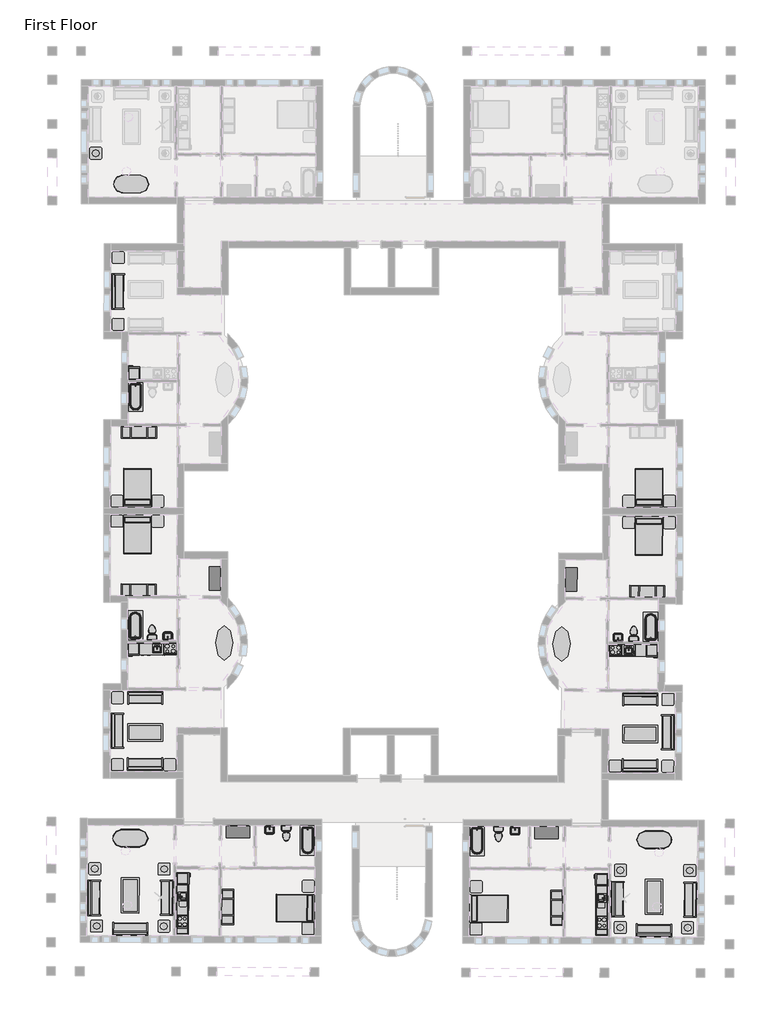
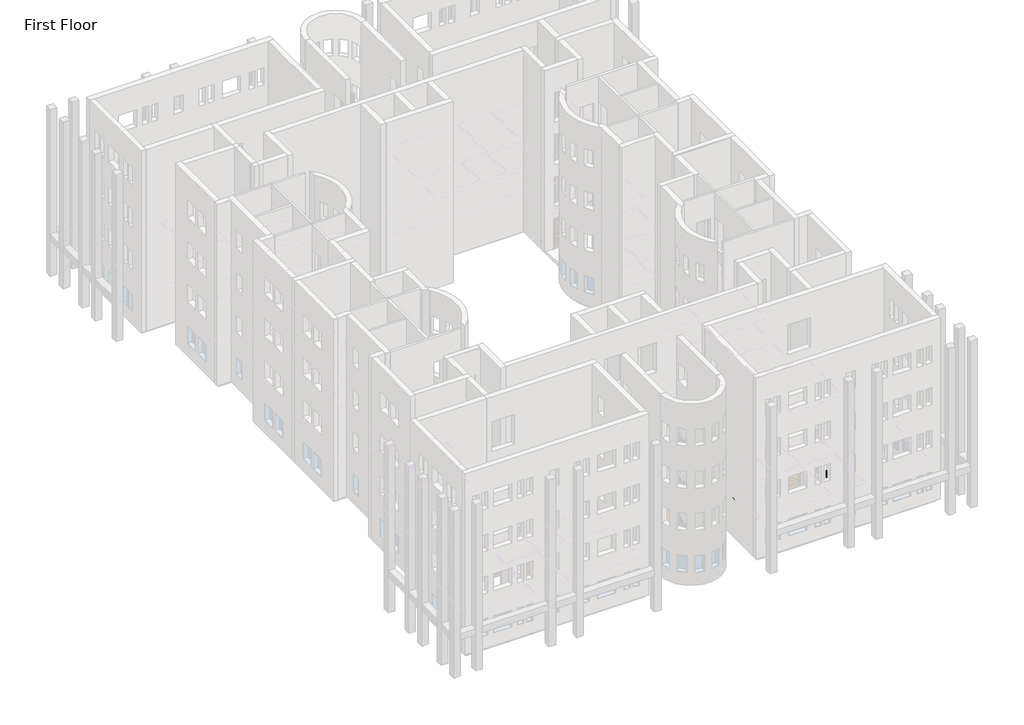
# One storey, part 21 of 23: 70 furniture elements, 17 flow terminals, 17 proxies.
"""IFC4 building model written with IfcOpenShell, lengths in millimetres."""

from ifc_helpers import new_model, si_unit, origin, place, context, project, spatial, transform, mapped, element, save
from components import m_cook_top_4_unit2_0615_x_500mm_249f3515, m_cook_top_4_unit2_0615_x_500mm_c91639ce, m_dishwasher_610_x_610_x_875mm_54ecfc4c, m_dishwasher_610_x_610_x_875mm_75336c20, m_kitchenette_medium_2591_ce898a11, m_kitchenette_medium_2591_5feaf90f, m_kitchenette_medium_1372mm_e05c6bec, m_kitchenette_medium_1372mm_39f1532f, m_refrigerator_600_x_660mm_a466bf94, m_refrigerator_600_x_660mm_0a899b9c, m_sink_kitchen_island_450_x_450mm_f969cf2d, m_sink_kitchen_island_450_x_450mm_f6c2c534, m_sink_vanity_square_500_x_440mm_1e229b74, m_sink_vanity_square_500_x_440mm_f3cfe680, m_toilet_domestic_3d_m_toilet_domestic_3d_5cb52bd4, m_toilet_domestic_3d_m_toilet_domestic_3d_183bbd19, m_toilet_domestic_3d_m_toilet_domestic_3d_43425dfb, m_toilet_domestic_3d_m_toilet_domestic_3d_5530cc89, m_tub_rectangular_3d_m_tub_rectangular_3d_3a981ad5, m_tub_rectangular_3d_m_tub_rectangular_3d_c2020133, m_bed_shaker_1422_x_1981mm_double_096e7f55, m_bed_shaker_1422_x_1981mm_double_097b173b, m_counter_top_w_sink_hole_600mm_depth_5db41418, m_counter_top_w_sink_hole_600mm_depth_08c4f679, m_counter_top_w_sink_hole_600mm_depth_60928b92, m_counter_top_w_sink_hole_600mm_depth_42226178, m_dresser_1220_x_1525_x_0610mm_18e1f140, m_dresser_1220_x_1525_x_0610mm_4e5de046, m_entertainment_center_1830_x_1830_x_0610mm_f77a9b93, m_entertainment_center_1830_x_1830_x_0610mm_4f6058a0, m_sofa_1830mm_58d08fc1, m_sofa_1830mm_3da2e71b, m_sofa1_1830mm_f9e8a66b, m_sofa1_1830mm_493d6964, m_table_coffee_0915_x_1830_x_0457mm_134cd960, m_table_coffee_0915_x_1830_x_0457mm_595c1ebd, m_table_dining_oval_0915_x_1830mm_a7cfbe21, m_table_dining_oval_0915_x_1830mm_ad8305c5, m_table_ellipse_1800_x_900mm_fd46d5a5, m_table_ellipse_1800_x_900mm_f7269293, m_table_end_cb6ea12e, m_table_end_aa2764bc, m_table_end_0610_x_0160mm_e0e5b28f, m_table_end_0610_x_0160mm_ccef8dc9

model = new_model("IFC4")

# Units and contexts
model_context = context("Model", 3, world=origin())
ifc_project = project(units=[si_unit("LENGTHUNIT", "METRE", prefix="MILLI")], contexts=[model_context])

# Site, building, storey
site = spatial("IfcSite", under=ifc_project)
building = spatial("IfcBuilding", under=site)
storey = spatial("IfcBuildingStorey", under=building, Name="First Floor", Elevation=0.0)

# Proxies
placement = place(None, origin())
m_cook_top_4_unit2_0615_x_500mm_shape = m_cook_top_4_unit2_0615_x_500mm_249f3515(model_context)
element("IfcBuildingElementProxy", 1, Name="M_Cook Top-4 Unit2 : 0615 x 500mm", ObjectType="M_Cook Top-4 Unit2 : 0615 x 500mm", at=placement, inside=storey, context=model_context, shape_type="MappedRepresentation", body=[
    mapped(m_cook_top_4_unit2_0615_x_500mm_shape, transform((-7404.4223325, -26881.3653639, 0.0), x_axis=(0.9999905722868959, -0.004342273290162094, 0.0), y_axis=(0.004342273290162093, 0.9999905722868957, 0.0), z_axis=(0.0, 0.0, 0.9999999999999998))),
])
element("IfcBuildingElementProxy", 2, Name="M_Cook Top-4 Unit2 : 0615 x 500mm", ObjectType="M_Cook Top-4 Unit2 : 0615 x 500mm", at=placement, inside=storey, context=model_context, shape_type="MappedRepresentation", body=[
    mapped(m_cook_top_4_unit2_0615_x_500mm_shape, transform((-29920.9332305, -40997.2205846, 0.0), x_axis=(0.0028948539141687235, 0.9999958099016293, 0.0), y_axis=(-0.9999958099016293, 0.0028948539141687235, 0.0), z_axis=(0.0, 0.0, 1.0))),
])
m_cook_top_4_unit2_0615_x_500mm_2_shape = m_cook_top_4_unit2_0615_x_500mm_c91639ce(model_context)
element("IfcBuildingElementProxy", 3, Name="M_Cook Top-4 Unit2 : 0615 x 500mm", ObjectType="M_Cook Top-4 Unit2 : 0615 x 500mm", at=placement, inside=storey, context=model_context, shape_type="MappedRepresentation", body=[
    mapped(m_cook_top_4_unit2_0615_x_500mm_2_shape, transform((-8116.8245922, -41060.3405583, 0.0), x_axis=(0.0028948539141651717, 0.9999958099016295, 0.0), y_axis=(-0.9999958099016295, 0.0028948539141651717, 0.0), z_axis=(0.0, 0.0, 1.0))),
])
element("IfcBuildingElementProxy", 4, Name="M_Cook Top-4 Unit2 : 0615 x 500mm", ObjectType="M_Cook Top-4 Unit2 : 0615 x 500mm", at=placement, inside=storey, context=model_context, shape_type="MappedRepresentation", body=[
    mapped(m_cook_top_4_unit2_0615_x_500mm_2_shape, transform((-30551.2317704, -26814.3584512, 0.0), x_axis=(-0.9999989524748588, 0.0014474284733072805, 0.0), y_axis=(-0.0014474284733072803, -0.9999989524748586, 0.0), z_axis=(0.0, 0.0, 0.9999999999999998))),
])
m_dishwasher_610_x_610_x_875mm_shape = m_dishwasher_610_x_610_x_875mm_54ecfc4c(model_context)
element("IfcBuildingElementProxy", 5, Name="M_Dishwasher : 610 x 610 x 875mm", ObjectType="M_Dishwasher : 610 x 610 x 875mm", at=placement, inside=storey, context=model_context, shape_type="MappedRepresentation", body=[
    mapped(m_dishwasher_610_x_610_x_875mm_shape, transform((-6490.1062972, -27151.9876901, 0.0), x_axis=(0.9999905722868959, -0.004342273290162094, 0.0), y_axis=(0.004342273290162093, 0.9999905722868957, 0.0), z_axis=(0.0, 0.0, 0.9999999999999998))),
])
element("IfcBuildingElementProxy", 6, Name="M_Dishwasher : 610 x 610 x 875mm", ObjectType="M_Dishwasher : 610 x 610 x 875mm", at=placement, inside=storey, context=model_context, shape_type="MappedRepresentation", body=[
    mapped(m_dishwasher_610_x_610_x_875mm_shape, transform((-29650.6496208, -39742.2652263, 0.0), x_axis=(0.0028948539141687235, 0.9999958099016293, 0.0), y_axis=(-0.9999958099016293, 0.0028948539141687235, 0.0), z_axis=(0.0, 0.0, 1.0))),
])
m_dishwasher_610_x_610_x_875mm_2_shape = m_dishwasher_610_x_610_x_875mm_75336c20(model_context)
element("IfcBuildingElementProxy", 7, Name="M_Dishwasher : 610 x 610 x 875mm", ObjectType="M_Dishwasher : 610 x 610 x 875mm", at=placement, inside=storey, context=model_context, shape_type="MappedRepresentation", body=[
    mapped(m_dishwasher_610_x_610_x_875mm_2_shape, transform((-8379.8378775, -39803.8413769, 0.0), x_axis=(0.0028948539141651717, 0.9999958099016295, 0.0), y_axis=(-0.9999958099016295, 0.0028948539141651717, 0.0), z_axis=(0.0, 0.0, 1.0))),
])
element("IfcBuildingElementProxy", 8, Name="M_Dishwasher : 610 x 610 x 875mm", ObjectType="M_Dishwasher : 610 x 610 x 875mm", at=placement, inside=storey, context=model_context, shape_type="MappedRepresentation", body=[
    mapped(m_dishwasher_610_x_610_x_875mm_2_shape, transform((-31467.0992991, -27079.6826412, 0.0), x_axis=(-0.9999989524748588, 0.0014474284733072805, 0.0), y_axis=(-0.0014474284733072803, -0.9999989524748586, 0.0), z_axis=(0.0, 0.0, 0.9999999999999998))),
])
m_kitchenette_medium_2591_shape = m_kitchenette_medium_2591_ce898a11(model_context)
element("IfcBuildingElementProxy", 9, Name="M_Kitchenette - Medium : 2591", ObjectType="M_Kitchenette - Medium : 2591", at=placement, inside=storey, context=model_context, shape_type="MappedRepresentation", body=[
    mapped(m_kitchenette_medium_2591_shape, transform((-30224.1110538, -40367.3279947, 0.0), x_axis=(0.0028948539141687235, 0.9999958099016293, 0.0), y_axis=(-0.9999958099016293, 0.0028948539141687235, 0.0), z_axis=(0.0, 0.0, 1.0))),
])
m_kitchenette_medium_2591_2_shape = m_kitchenette_medium_2591_5feaf90f(model_context)
element("IfcBuildingElementProxy", 10, Name="M_Kitchenette - Medium : 2591", ObjectType="M_Kitchenette - Medium : 2591", at=placement, inside=storey, context=model_context, shape_type="MappedRepresentation", body=[
    mapped(m_kitchenette_medium_2591_2_shape, transform((-7810.0049715, -40432.2138293, 0.0), x_axis=(0.0028948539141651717, 0.9999958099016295, 0.0), y_axis=(-0.9999958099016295, 0.0028948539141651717, 0.0), z_axis=(0.0, 0.0, 1.0))),
])
m_kitchenette_medium_1372mm_shape = m_kitchenette_medium_1372mm_e05c6bec(model_context)
element("IfcBuildingElementProxy", 11, Name="M_Kitchenette - Medium1 : 1372mm 2", ObjectType="M_Kitchenette - Medium1 : 1372mm 2", at=placement, inside=storey, context=model_context, shape_type="MappedRepresentation", body=[
    mapped(m_kitchenette_medium_1372mm_shape, transform((-7078.8387011, -26577.7762748, 0.0), x_axis=(0.9999905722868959, -0.004342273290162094, 0.0), y_axis=(0.004342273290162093, 0.9999905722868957, 0.0), z_axis=(0.0, 0.0, 0.9999999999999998))),
])
m_kitchenette_medium_1372mm_2_shape = m_kitchenette_medium_1372mm_39f1532f(model_context)
element("IfcBuildingElementProxy", 12, Name="M_Kitchenette - Medium1 : 1372mm 2", ObjectType="M_Kitchenette - Medium1 : 1372mm 2", at=placement, inside=storey, context=model_context, shape_type="MappedRepresentation", body=[
    mapped(m_kitchenette_medium_1372mm_2_shape, transform((-30875.0522602, -26508.8894242, 0.0), x_axis=(-0.9999989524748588, 0.0014474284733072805, 0.0), y_axis=(-0.0014474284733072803, -0.9999989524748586, 0.0), z_axis=(0.0, 0.0, 0.9999999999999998))),
])
m_refrigerator_600_x_660mm_shape = m_refrigerator_600_x_660mm_a466bf94(model_context)
element("IfcBuildingElementProxy", 13, Name="M_Refrigerator : 600 x 660mm", ObjectType="M_Refrigerator : 600 x 660mm", at=placement, inside=storey, context=model_context, shape_type="MappedRepresentation", body=[
    mapped(m_refrigerator_600_x_660mm_shape, transform((-32487.3566416, -12528.1259936, 0.0), x_axis=(-0.9999989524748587, 0.0014474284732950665, 0.0), y_axis=(-0.0014474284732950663, -0.9999989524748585, 0.0), z_axis=(0.0, 0.0, 0.9999999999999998))),
])
element("IfcBuildingElementProxy", 14, Name="M_Refrigerator : 600 x 660mm", ObjectType="M_Refrigerator : 600 x 660mm", at=placement, inside=storey, context=model_context, shape_type="MappedRepresentation", body=[
    mapped(m_refrigerator_600_x_660mm_shape, transform((-5447.6014915, -26881.0775022, 0.0), x_axis=(0.9999905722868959, -0.004342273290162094, 0.0), y_axis=(0.004342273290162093, 0.9999905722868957, 0.0), z_axis=(0.0, 0.0, 0.9999999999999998))),
])
element("IfcBuildingElementProxy", 15, Name="M_Refrigerator : 600 x 660mm", ObjectType="M_Refrigerator : 600 x 660mm", at=placement, inside=storey, context=model_context, shape_type="MappedRepresentation", body=[
    mapped(m_refrigerator_600_x_660mm_shape, transform((-29923.068476, -38700.1536358, 0.0), x_axis=(0.0028948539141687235, 0.9999958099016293, 0.0), y_axis=(-0.9999958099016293, 0.0028948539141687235, 0.0), z_axis=(0.0, 0.0, 1.0))),
])
m_refrigerator_600_x_660mm_2_shape = m_refrigerator_600_x_660mm_0a899b9c(model_context)
element("IfcBuildingElementProxy", 16, Name="M_Refrigerator : 600 x 660mm", ObjectType="M_Refrigerator : 600 x 660mm", at=placement, inside=storey, context=model_context, shape_type="MappedRepresentation", body=[
    mapped(m_refrigerator_600_x_660mm_2_shape, transform((-8101.3900917, -38763.3244716, 0.0), x_axis=(0.0028948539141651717, 0.9999958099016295, 0.0), y_axis=(-0.9999958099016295, 0.0028948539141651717, 0.0), z_axis=(0.0, 0.0, 1.0))),
])
element("IfcBuildingElementProxy", 17, Name="M_Refrigerator : 600 x 660mm", ObjectType="M_Refrigerator : 600 x 660mm", at=placement, inside=storey, context=model_context, shape_type="MappedRepresentation", body=[
    mapped(m_refrigerator_600_x_660mm_2_shape, transform((-32508.0181478, -26802.7412209, 0.0), x_axis=(-0.9999989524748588, 0.0014474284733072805, 0.0), y_axis=(-0.0014474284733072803, -0.9999989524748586, 0.0), z_axis=(0.0, 0.0, 0.9999999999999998))),
])

# Flow terminals
m_sink_kitchen_island_450_x_450mm_shape = m_sink_kitchen_island_450_x_450mm_f969cf2d(model_context)
element("IfcFlowTerminal", 18, ObjectType="M_Sink Kitchen-Island : 450 x 450mm", at=placement, inside=storey, context=model_context, shape_type="MappedRepresentation", body=[
    mapped(m_sink_kitchen_island_450_x_450mm_shape, transform((-6734.1280769, -26886.6214154, 0.0), x_axis=(0.9999905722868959, -0.004342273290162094, 0.0), y_axis=(0.004342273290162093, 0.9999905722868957, 0.0), z_axis=(0.0, 0.0, 0.9999999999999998))),
])
element("IfcFlowTerminal", 19, ObjectType="M_Sink Kitchen-Island : 450 x 450mm", at=placement, inside=storey, context=model_context, shape_type="MappedRepresentation", body=[
    mapped(m_sink_kitchen_island_450_x_450mm_shape, transform((-29914.882974, -39717.4219773, 0.0), x_axis=(0.0028948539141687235, 0.9999958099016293, 0.0), y_axis=(-0.9999958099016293, 0.0028948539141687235, 0.0), z_axis=(0.0, 0.0, 1.0))),
])
m_sink_kitchen_island_450_x_450mm_2_shape = m_sink_kitchen_island_450_x_450mm_f6c2c534(model_context)
element("IfcFlowTerminal", 20, ObjectType="M_Sink Kitchen-Island : 450 x 450mm", at=placement, inside=storey, context=model_context, shape_type="MappedRepresentation", body=[
    mapped(m_sink_kitchen_island_450_x_450mm_2_shape, transform((-8115.4651183, -39780.5283718, 0.0), x_axis=(0.0028948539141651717, 0.9999958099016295, 0.0), y_axis=(-0.9999958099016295, 0.0028948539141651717, 0.0), z_axis=(0.0, 0.0, 1.0))),
])
element("IfcFlowTerminal", 21, ObjectType="M_Sink Kitchen-Island : 450 x 450mm", at=placement, inside=storey, context=model_context, shape_type="MappedRepresentation", body=[
    mapped(m_sink_kitchen_island_450_x_450mm_2_shape, transform((-31221.5452225, -26815.733623, 0.0), x_axis=(-0.9999989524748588, 0.0014474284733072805, 0.0), y_axis=(-0.0014474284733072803, -0.9999989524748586, 0.0), z_axis=(0.0, 0.0, 0.9999999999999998))),
])
m_sink_vanity_square_500_x_440mm_shape = m_sink_vanity_square_500_x_440mm_1e229b74(model_context)
element("IfcFlowTerminal", 22, ObjectType="M_Sink Vanity-Square : 500 x 440mm", at=placement, inside=storey, context=model_context, shape_type="MappedRepresentation", body=[
    mapped(m_sink_vanity_square_500_x_440mm_shape, transform((-7255.849628, -26269.4593372, 0.0), x_axis=(-0.9999905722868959, 0.00434227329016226, 0.0), y_axis=(-0.0043422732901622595, -0.9999905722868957, 0.0), z_axis=(0.0, 0.0, 0.9999999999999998))),
])
element("IfcFlowTerminal", 23, ObjectType="M_Sink Vanity-Square : 500 x 440mm", at=placement, inside=storey, context=model_context, shape_type="MappedRepresentation", body=[
    mapped(m_sink_vanity_square_500_x_440mm_shape, transform((-25398.4470959, -36193.3769715, 0.0), x_axis=(0.9999958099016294, -0.0028948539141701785, 0.0), y_axis=(0.0028948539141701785, 0.9999958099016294, 0.0), z_axis=(0.0, 0.0, 1.0))),
])
m_sink_vanity_square_500_x_440mm_2_shape = m_sink_vanity_square_500_x_440mm_f3cfe680(model_context)
element("IfcFlowTerminal", 24, ObjectType="M_Sink Vanity-Square : 500 x 440mm", at=placement, inside=storey, context=model_context, shape_type="MappedRepresentation", body=[
    mapped(m_sink_vanity_square_500_x_440mm_2_shape, transform((-12611.4221939, -36230.3936957, 0.0), x_axis=(-0.9999958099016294, 0.002894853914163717, 0.0), y_axis=(-0.002894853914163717, -0.9999958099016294, 0.0), z_axis=(0.0, 0.0, 1.0))),
])
element("IfcFlowTerminal", 25, ObjectType="M_Sink Vanity-Square : 500 x 440mm", at=placement, inside=storey, context=model_context, shape_type="MappedRepresentation", body=[
    mapped(m_sink_vanity_square_500_x_440mm_2_shape, transform((-30696.2592425, -26201.6024913, 0.0), x_axis=(0.9999989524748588, -0.001447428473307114, 0.0), y_axis=(0.0014474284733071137, 0.9999989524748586, 0.0), z_axis=(0.0, 0.0, 0.9999999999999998))),
])
m_toilet_domestic_3d_m_toilet_domestic_3d_shape = m_toilet_domestic_3d_m_toilet_domestic_3d_5cb52bd4(model_context)
m_toilet_domestic_3d_m_toilet_domestic_3d_2_shape = m_toilet_domestic_3d_m_toilet_domestic_3d_183bbd19(model_context)
element("IfcFlowTerminal", 26, ObjectType="M_Toilet-Domestic-3D : M_Toilet-Domestic-3D", at=placement, inside=storey, context=model_context, shape_type="MappedRepresentation", body=[
    mapped(m_toilet_domestic_3d_m_toilet_domestic_3d_shape, transform((-24522.1713775, -36508.8406097, 0.0), x_axis=(0.9999958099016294, -0.00289485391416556, 0.0), y_axis=(0.00289485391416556, 0.9999958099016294, 0.0), z_axis=(0.0, 0.0, 1.0))),
    mapped(m_toilet_domestic_3d_m_toilet_domestic_3d_2_shape, transform((-24522.1713775, -36508.8406097, 0.0), x_axis=(0.9999958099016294, -0.00289485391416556, 0.0), y_axis=(0.00289485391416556, 0.9999958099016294, 0.0), z_axis=(0.0, 0.0, 1.0))),
])
m_toilet_domestic_3d_m_toilet_domestic_3d_3_shape = m_toilet_domestic_3d_m_toilet_domestic_3d_43425dfb(model_context)
m_toilet_domestic_3d_m_toilet_domestic_3d_4_shape = m_toilet_domestic_3d_m_toilet_domestic_3d_5530cc89(model_context)
element("IfcFlowTerminal", 27, ObjectType="M_Toilet-Domestic-3D : M_Toilet-Domestic-3D", at=placement, inside=storey, context=model_context, shape_type="MappedRepresentation", body=[
    mapped(m_toilet_domestic_3d_m_toilet_domestic_3d_3_shape, transform((-13489.5096603, -36540.7786875, 0.0), x_axis=(-0.9999958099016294, 0.002894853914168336, 0.0), y_axis=(-0.002894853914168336, -0.9999958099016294, 0.0), z_axis=(0.0, 0.0, 1.0))),
    mapped(m_toilet_domestic_3d_m_toilet_domestic_3d_4_shape, transform((-13489.5096603, -36540.7786875, 0.0), x_axis=(-0.9999958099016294, 0.002894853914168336, 0.0), y_axis=(-0.002894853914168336, -0.9999958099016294, 0.0), z_axis=(0.0, 0.0, 1.0))),
])
element("IfcFlowTerminal", 28, ObjectType="M_Toilet-Domestic-3D1 : M_Toilet-Domestic-3D", at=placement, inside=storey, context=model_context, shape_type="MappedRepresentation", body=[
    mapped(m_toilet_domestic_3d_m_toilet_domestic_3d_shape, transform((-6457.2243201, -25950.2735511, 0.0), x_axis=(-0.9999905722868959, 0.00434227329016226, 0.0), y_axis=(-0.0043422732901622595, -0.9999905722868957, 0.0), z_axis=(0.0, 0.0, 0.9999999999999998))),
    mapped(m_toilet_domestic_3d_m_toilet_domestic_3d_2_shape, transform((-6457.2243201, -25950.2735511, 0.0), x_axis=(-0.9999905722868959, 0.00434227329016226, 0.0), y_axis=(-0.0043422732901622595, -0.9999905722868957, 0.0), z_axis=(0.0, 0.0, 0.9999999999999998))),
])
element("IfcFlowTerminal", 29, ObjectType="M_Toilet-Domestic-3D1 : M_Toilet-Domestic-3D", at=placement, inside=storey, context=model_context, shape_type="MappedRepresentation", body=[
    mapped(m_toilet_domestic_3d_m_toilet_domestic_3d_3_shape, transform((-31493.0231805, -25877.7982671, 0.0), x_axis=(0.9999989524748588, -0.001447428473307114, 0.0), y_axis=(0.0014474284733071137, 0.9999989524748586, 0.0), z_axis=(0.0, 0.0, 0.9999999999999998))),
    mapped(m_toilet_domestic_3d_m_toilet_domestic_3d_4_shape, transform((-31493.0231805, -25877.7982671, 0.0), x_axis=(0.9999989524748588, -0.001447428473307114, 0.0), y_axis=(0.0014474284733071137, 0.9999989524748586, 0.0), z_axis=(0.0, 0.0, 0.9999999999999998))),
])
m_tub_rectangular_3d_m_tub_rectangular_3d_shape = m_tub_rectangular_3d_m_tub_rectangular_3d_3a981ad5(model_context)
element("IfcFlowTerminal", 30, ObjectType="M_Tub-Rectangular-3D : M_Tub-Rectangular-3D", at=placement, inside=storey, context=model_context, shape_type="MappedRepresentation", body=[
    mapped(m_tub_rectangular_3d_m_tub_rectangular_3d_shape, transform((-22854.3573612, -37129.57823, 0.0), x_axis=(-0.0028948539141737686, -0.9999958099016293, 0.0), y_axis=(0.9999958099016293, -0.0028948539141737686, 0.0), z_axis=(0.0, 0.0, 1.0))),
])
element("IfcFlowTerminal", 31, ObjectType="M_Tub-Rectangular-3D : M_Tub-Rectangular-3D", at=placement, inside=storey, context=model_context, shape_type="MappedRepresentation", body=[
    mapped(m_tub_rectangular_3d_m_tub_rectangular_3d_shape, transform((-32926.5841692, -25259.8157014, 0.0), x_axis=(0.0014474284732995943, 0.9999989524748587, 0.0), y_axis=(-0.9999989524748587, 0.0014474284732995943, 0.0), z_axis=(0.0, 0.0, 1.0))),
])
m_tub_rectangular_3d_m_tub_rectangular_3d_2_shape = m_tub_rectangular_3d_m_tub_rectangular_3d_c2020133(model_context)
element("IfcFlowTerminal", 32, ObjectType="M_Tub-Rectangular-3D : M_Tub-Rectangular-3D", at=placement, inside=storey, context=model_context, shape_type="MappedRepresentation", body=[
    mapped(m_tub_rectangular_3d_m_tub_rectangular_3d_2_shape, transform((-32910.3874532, -14069.8333606, 0.0), x_axis=(-0.0014474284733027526, -0.9999989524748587, 0.0), y_axis=(0.9999989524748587, -0.0014474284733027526, 0.0), z_axis=(0.0, 0.0, 1.0))),
])
element("IfcFlowTerminal", 33, ObjectType="M_Tub-Rectangular-3D : M_Tub-Rectangular-3D", at=placement, inside=storey, context=model_context, shape_type="MappedRepresentation", body=[
    mapped(m_tub_rectangular_3d_m_tub_rectangular_3d_2_shape, transform((-15160.8895978, -37151.8497886, 0.0), x_axis=(-0.0028948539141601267, -0.9999958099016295, 0.0), y_axis=(0.9999958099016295, -0.0028948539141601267, 0.0), z_axis=(0.0, 0.0, 1.0))),
])
element("IfcFlowTerminal", 34, ObjectType="M_Tub-Rectangular-3D : M_Tub-Rectangular-3D", at=placement, inside=storey, context=model_context, shape_type="MappedRepresentation", body=[
    mapped(m_tub_rectangular_3d_m_tub_rectangular_3d_2_shape, transform((-5020.1094348, -25340.6012075, 0.0), x_axis=(0.004342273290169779, 0.9999905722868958, 0.0), y_axis=(-0.9999905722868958, 0.004342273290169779, 0.0), z_axis=(0.0, 0.0, 1.0))),
])

# Furniture
m_bed_shaker_1422_x_1981mm_double_shape = m_bed_shaker_1422_x_1981mm_double_096e7f55(model_context)
element("IfcFurniture", 35, ObjectType="M_Bed-Shaker : 1422 x 1981mm - Double", at=placement, inside=storey, context=model_context, shape_type="MappedRepresentation", body=[
    mapped(m_bed_shaker_1422_x_1981mm_double_shape, transform((-32265.3963493, -19430.7695861, 0.0), x_axis=(-0.9999989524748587, 0.0014474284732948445, 0.0), y_axis=(-0.0014474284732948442, -0.9999989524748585, 0.0), z_axis=(0.0, 0.0, 0.9999999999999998))),
])
element("IfcFurniture", 36, ObjectType="M_Bed-Shaker : 1422 x 1981mm - Double", at=placement, inside=storey, context=model_context, shape_type="MappedRepresentation", body=[
    mapped(m_bed_shaker_1422_x_1981mm_double_shape, transform((-5649.5787089, -19977.8202898, 0.0), x_axis=(0.9999905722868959, -0.004342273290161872, 0.0), y_axis=(0.004342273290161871, 0.9999905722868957, 0.0), z_axis=(0.0, 0.0, 0.9999999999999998))),
])
element("IfcFurniture", 37, ObjectType="M_Bed-Shaker : 1422 x 1981mm - Double", at=placement, inside=storey, context=model_context, shape_type="MappedRepresentation", body=[
    mapped(m_bed_shaker_1422_x_1981mm_double_shape, transform((-23068.6004859, -40322.2184362, 0.0), x_axis=(-0.002894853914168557, -0.9999958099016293, 0.0), y_axis=(0.9999958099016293, -0.002894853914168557, 0.0), z_axis=(0.0, 0.0, 1.0))),
])
m_bed_shaker_1422_x_1981mm_double_2_shape = m_bed_shaker_1422_x_1981mm_double_097b173b(model_context)
element("IfcFurniture", 38, ObjectType="M_Bed-Shaker : 1422 x 1981mm - Double", at=placement, inside=storey, context=model_context, shape_type="MappedRepresentation", body=[
    mapped(m_bed_shaker_1422_x_1981mm_double_2_shape, transform((-5648.7868913, -19430.7695861, 0.0), x_axis=(0.9999989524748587, 0.0014474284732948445, 0.0), y_axis=(-0.0014474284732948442, 0.9999989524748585, 0.0), z_axis=(0.0, 0.0, 0.9999999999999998))),
])
element("IfcFurniture", 39, ObjectType="M_Bed-Shaker : 1422 x 1981mm - Double", at=placement, inside=storey, context=model_context, shape_type="MappedRepresentation", body=[
    mapped(m_bed_shaker_1422_x_1981mm_double_2_shape, transform((-14965.1344404, -40345.6768849, 0.0), x_axis=(-0.0028948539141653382, -0.9999958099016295, 0.0), y_axis=(0.9999958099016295, -0.0028948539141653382, 0.0), z_axis=(0.0, 0.0, 1.0))),
])
element("IfcFurniture", 40, ObjectType="M_Bed-Shaker : 1422 x 1981mm - Double", at=placement, inside=storey, context=model_context, shape_type="MappedRepresentation", body=[
    mapped(m_bed_shaker_1422_x_1981mm_double_2_shape, transform((-32266.0766407, -19900.7690938, 0.0), x_axis=(-0.9999989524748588, 0.0014474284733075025, 0.0), y_axis=(-0.0014474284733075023, -0.9999989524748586, 0.0), z_axis=(0.0, 0.0, 0.9999999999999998))),
])
m_counter_top_w_sink_hole_600mm_depth_shape = m_counter_top_w_sink_hole_600mm_depth_5db41418(model_context)
element("IfcFurniture", 41, ObjectType="M_Counter Top w Sink Hole : 600mm Depth", at=placement, inside=storey, context=model_context, shape_type="MappedRepresentation", body=[
    mapped(m_counter_top_w_sink_hole_600mm_depth_shape, transform((-30222.5675177, -39834.1302289, 0.0), x_axis=(0.0028948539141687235, 0.9999958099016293, 0.0), y_axis=(-0.9999958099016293, 0.0028948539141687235, 0.0), z_axis=(0.0, 0.0, 1.0))),
])
m_counter_top_w_sink_hole_600mm_depth_2_shape = m_counter_top_w_sink_hole_600mm_depth_08c4f679(model_context)
element("IfcFurniture", 42, ObjectType="M_Counter Top w Sink Hole : 600mm Depth", at=placement, inside=storey, context=model_context, shape_type="MappedRepresentation", body=[
    mapped(m_counter_top_w_sink_hole_600mm_depth_2_shape, transform((-6545.643728, -26580.0915749, 0.0), x_axis=(0.9999905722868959, -0.004342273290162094, 0.0), y_axis=(0.004342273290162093, 0.9999905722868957, 0.0), z_axis=(0.0, 0.0, 0.9999999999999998))),
])
m_counter_top_w_sink_hole_600mm_depth_3_shape = m_counter_top_w_sink_hole_600mm_depth_60928b92(model_context)
element("IfcFurniture", 43, ObjectType="M_Counter Top w Sink Hole : 600mm Depth", at=placement, inside=storey, context=model_context, shape_type="MappedRepresentation", body=[
    mapped(m_counter_top_w_sink_hole_600mm_depth_3_shape, transform((-31408.2517016, -26508.1176554, 0.0), x_axis=(-0.9999989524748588, 0.0014474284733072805, 0.0), y_axis=(-0.0014474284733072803, -0.9999989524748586, 0.0), z_axis=(0.0, 0.0, 0.9999999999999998))),
])
m_counter_top_w_sink_hole_600mm_depth_4_shape = m_counter_top_w_sink_hole_600mm_depth_42226178(model_context)
element("IfcFurniture", 44, ObjectType="M_Counter Top w Sink Hole : 600mm Depth", at=placement, inside=storey, context=model_context, shape_type="MappedRepresentation", body=[
    mapped(m_counter_top_w_sink_hole_600mm_depth_4_shape, transform((-7808.4614354, -39899.0160635, 0.0), x_axis=(0.0028948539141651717, 0.9999958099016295, 0.0), y_axis=(-0.9999958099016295, 0.0028948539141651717, 0.0), z_axis=(0.0, 0.0, 1.0))),
])
m_dresser_1220_x_1525_x_0610mm_shape = m_dresser_1220_x_1525_x_0610mm_18e1f140(model_context)
element("IfcFurniture", 45, ObjectType="M_Dresser : 1220 x 1525 x 0610mm", at=placement, inside=storey, context=model_context, shape_type="MappedRepresentation", body=[
    mapped(m_dresser_1220_x_1525_x_0610mm_shape, transform((-9350.5209907, -23482.9760924, 0.0), x_axis=(-0.004342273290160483, -0.9999905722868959, 0.0), y_axis=(0.9999905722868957, -0.004342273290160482, 0.0), z_axis=(0.0, 0.0, 0.9999999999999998))),
])
element("IfcFurniture", 46, ObjectType="M_Dresser : 1220 x 1525 x 0610mm", at=placement, inside=storey, context=model_context, shape_type="MappedRepresentation", body=[
    mapped(m_dresser_1220_x_1525_x_0610mm_shape, transform((-27295.820683, -36698.2790207, 0.0), x_axis=(-0.9999958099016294, 0.0028948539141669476, 0.0), y_axis=(-0.0028948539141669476, -0.9999958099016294, 0.0), z_axis=(0.0, 0.0, 1.0))),
])
m_dresser_1220_x_1525_x_0610mm_2_shape = m_dresser_1220_x_1525_x_0610mm_4e5de046(model_context)
element("IfcFurniture", 47, ObjectType="M_Dresser : 1220 x 1525 x 0610mm", at=placement, inside=storey, context=model_context, shape_type="MappedRepresentation", body=[
    mapped(m_dresser_1220_x_1525_x_0610mm_2_shape, transform((-10717.0036305, -36746.2724752, 0.0), x_axis=(0.9999958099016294, -0.002894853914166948, 0.0), y_axis=(0.002894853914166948, 0.9999958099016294, 0.0), z_axis=(0.0, 0.0, 1.0))),
])
element("IfcFurniture", 48, ObjectType="M_Dresser : 1220 x 1525 x 0610mm", at=placement, inside=storey, context=model_context, shape_type="MappedRepresentation", body=[
    mapped(m_dresser_1220_x_1525_x_0610mm_2_shape, transform((-28585.490131, -23427.2934334, 0.0), x_axis=(-0.0014474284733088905, -0.9999989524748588, 0.0), y_axis=(0.9999989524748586, -0.0014474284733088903, 0.0), z_axis=(0.0, 0.0, 0.9999999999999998))),
])
m_entertainment_center_1830_x_1830_x_0610mm_shape = m_entertainment_center_1830_x_1830_x_0610mm_f77a9b93(model_context)
element("IfcFurniture", 49, ObjectType="M_Entertainment center : 1830 x 1830 x 0610mm", at=placement, inside=storey, context=model_context, shape_type="MappedRepresentation", body=[
    mapped(m_entertainment_center_1830_x_1830_x_0610mm_shape, transform((-32173.151944, -15980.2994888, 0.0), x_axis=(-0.9999989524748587, 0.0014474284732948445, 0.0), y_axis=(-0.0014474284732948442, -0.9999989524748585, 0.0), z_axis=(0.0, 0.0, 0.9999999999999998))),
])
element("IfcFurniture", 50, ObjectType="M_Entertainment center : 1830 x 1830 x 0610mm", at=placement, inside=storey, context=model_context, shape_type="MappedRepresentation", body=[
    mapped(m_entertainment_center_1830_x_1830_x_0610mm_shape, transform((-5751.8113346, -23428.0088952, 0.0), x_axis=(0.9999905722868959, -0.004342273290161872, 0.0), y_axis=(0.004342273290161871, 0.9999905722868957, 0.0), z_axis=(0.0, 0.0, 0.9999999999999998))),
])
element("IfcFurniture", 51, ObjectType="M_Entertainment center : 1830 x 1830 x 0610mm", at=placement, inside=storey, context=model_context, shape_type="MappedRepresentation", body=[
    mapped(m_entertainment_center_1830_x_1830_x_0610mm_shape, transform((-27155.4724705, -40237.537184, 0.0), x_axis=(-0.0028948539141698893, -0.9999958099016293, 0.0), y_axis=(0.9999958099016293, -0.0028948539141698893, 0.0), z_axis=(0.0, 0.0, 1.0))),
])
m_entertainment_center_1830_x_1830_x_0610mm_2_shape = m_entertainment_center_1830_x_1830_x_0610mm_4f6058a0(model_context)
element("IfcFurniture", 52, ObjectType="M_Entertainment center : 1830 x 1830 x 0610mm", at=placement, inside=storey, context=model_context, shape_type="MappedRepresentation", body=[
    mapped(m_entertainment_center_1830_x_1830_x_0610mm_2_shape, transform((-10877.8406756, -40284.6587476, 0.0), x_axis=(-0.002894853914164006, -0.9999958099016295, 0.0), y_axis=(0.9999958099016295, -0.002894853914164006, 0.0), z_axis=(0.0, 0.0, 1.0))),
])
element("IfcFurniture", 53, ObjectType="M_Entertainment center : 1830 x 1830 x 0610mm", at=placement, inside=storey, context=model_context, shape_type="MappedRepresentation", body=[
    mapped(m_entertainment_center_1830_x_1830_x_0610mm_2_shape, transform((-32183.8212288, -23351.4917673, 0.0), x_axis=(-0.9999989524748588, 0.0014474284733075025, 0.0), y_axis=(-0.0014474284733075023, -0.9999989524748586, 0.0), z_axis=(0.0, 0.0, 0.9999999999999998))),
])
m_sofa_1830mm_shape = m_sofa_1830mm_58d08fc1(model_context)
element("IfcFurniture", 54, ObjectType="M_Sofa : 1830mm", at=placement, inside=storey, context=model_context, shape_type="MappedRepresentation", body=[
    mapped(m_sofa_1830mm_shape, transform((-32562.8997947, -41230.7335351, 0.0), x_axis=(-0.9999958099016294, 0.0028948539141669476, 0.0), y_axis=(-0.0028948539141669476, -0.9999958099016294, 0.0), z_axis=(0.0, 0.0, 1.0))),
])
element("IfcFurniture", 55, ObjectType="M_Sofa : 1830mm", at=placement, inside=storey, context=model_context, shape_type="MappedRepresentation", body=[
    mapped(m_sofa_1830mm_shape, transform((-34355.4280294, -39842.8427064, 0.0), x_axis=(0.0028948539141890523, 0.9999958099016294, 0.0), y_axis=(-0.9999958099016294, 0.0028948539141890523, 0.0), z_axis=(0.0, 0.0, 1.0))),
])
element("IfcFurniture", 56, ObjectType="M_Sofa : 1830mm", at=placement, inside=storey, context=model_context, shape_type="MappedRepresentation", body=[
    mapped(m_sofa_1830mm_shape, transform((-30883.7111212, -39691.3716975, 0.0), x_axis=(-0.002894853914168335, -0.9999958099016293, 0.0), y_axis=(0.9999958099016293, -0.002894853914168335, 0.0), z_axis=(0.0, 0.0, 1.0))),
])
m_sofa_1830mm_2_shape = m_sofa_1830mm_3da2e71b(model_context)
element("IfcFurniture", 57, ObjectType="M_Sofa : 1830mm", at=placement, inside=storey, context=model_context, shape_type="MappedRepresentation", body=[
    mapped(m_sofa_1830mm_2_shape, transform((-5476.2542745, -41309.1457454, 0.0), x_axis=(0.9999958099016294, -0.002894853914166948, 0.0), y_axis=(0.002894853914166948, 0.9999958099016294, 0.0), z_axis=(0.0, 0.0, 1.0))),
])
element("IfcFurniture", 58, ObjectType="M_Sofa : 1830mm", at=placement, inside=storey, context=model_context, shape_type="MappedRepresentation", body=[
    mapped(m_sofa_1830mm_2_shape, transform((-3675.7206344, -39931.6563496, 0.0), x_axis=(0.002894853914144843, 0.9999958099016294, 0.0), y_axis=(-0.9999958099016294, 0.002894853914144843, 0.0), z_axis=(0.0, 0.0, 1.0))),
])
element("IfcFurniture", 59, ObjectType="M_Sofa : 1830mm", at=placement, inside=storey, context=model_context, shape_type="MappedRepresentation", body=[
    mapped(m_sofa_1830mm_2_shape, transform((-7146.5023862, -39760.087737, 0.0), x_axis=(-0.0028948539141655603, -0.9999958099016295, 0.0), y_axis=(0.9999958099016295, -0.0028948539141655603, 0.0), z_axis=(0.0, 0.0, 1.0))),
])
m_sofa1_1830mm_shape = m_sofa1_1830mm_f9e8a66b(model_context)
element("IfcFurniture", 60, ObjectType="M_Sofa1 : 1830mm", at=placement, inside=storey, context=model_context, shape_type="MappedRepresentation", body=[
    mapped(m_sofa1_1830mm_shape, transform((-33110.3167447, -8323.9054813, 0.0), x_axis=(0.0014474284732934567, 0.9999989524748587, 0.0), y_axis=(-0.9999989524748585, 0.0014474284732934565, 0.0), z_axis=(0.0, 0.0, 0.9999999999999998))),
])
element("IfcFurniture", 61, ObjectType="M_Sofa1 : 1830mm", at=placement, inside=storey, context=model_context, shape_type="MappedRepresentation", body=[
    mapped(m_sofa1_1830mm_shape, transform((-4836.8146029, -31087.0837768, 0.0), x_axis=(-0.004342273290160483, -0.9999905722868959, 0.0), y_axis=(0.9999905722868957, -0.004342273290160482, 0.0), z_axis=(0.0, 0.0, 0.9999999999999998))),
])
element("IfcFurniture", 62, ObjectType="M_Sofa1 : 1830mm", at=placement, inside=storey, context=model_context, shape_type="MappedRepresentation", body=[
    mapped(m_sofa1_1830mm_shape, transform((-6189.5797831, -29598.4702567, 0.0), x_axis=(0.9999905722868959, -0.004342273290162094, 0.0), y_axis=(0.004342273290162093, 0.9999905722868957, 0.0), z_axis=(0.0, 0.0, 0.9999999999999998))),
])
element("IfcFurniture", 63, ObjectType="M_Sofa1 : 1830mm", at=placement, inside=storey, context=model_context, shape_type="MappedRepresentation", body=[
    mapped(m_sofa1_1830mm_shape, transform((-6062.461585, -32735.9936216, 0.0), x_axis=(-0.9999905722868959, 0.00434227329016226, 0.0), y_axis=(-0.0043422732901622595, -0.9999905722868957, 0.0), z_axis=(0.0, 0.0, 0.9999999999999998))),
])
m_sofa1_1830mm_2_shape = m_sofa1_1830mm_493d6964(model_context)
element("IfcFurniture", 64, ObjectType="M_Sofa1 : 1830mm", at=placement, inside=storey, context=model_context, shape_type="MappedRepresentation", body=[
    mapped(m_sofa1_1830mm_2_shape, transform((-33143.1462448, -31005.1407385, 0.0), x_axis=(-0.0014474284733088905, -0.9999989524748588, 0.0), y_axis=(0.9999989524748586, -0.0014474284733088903, 0.0), z_axis=(0.0, 0.0, 0.9999999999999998))),
])
element("IfcFurniture", 65, ObjectType="M_Sofa1 : 1830mm", at=placement, inside=storey, context=model_context, shape_type="MappedRepresentation", body=[
    mapped(m_sofa1_1830mm_2_shape, transform((-31781.7851362, -29524.3842504, 0.0), x_axis=(-0.9999989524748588, 0.0014474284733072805, 0.0), y_axis=(-0.0014474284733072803, -0.9999989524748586, 0.0), z_axis=(0.0, 0.0, 0.9999999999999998))),
])
element("IfcFurniture", 66, ObjectType="M_Sofa1 : 1830mm", at=placement, inside=storey, context=model_context, shape_type="MappedRepresentation", body=[
    mapped(m_sofa1_1830mm_2_shape, transform((-31927.0664712, -32661.1190552, 0.0), x_axis=(0.9999989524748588, -0.001447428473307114, 0.0), y_axis=(0.0014474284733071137, 0.9999989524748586, 0.0), z_axis=(0.0, 0.0, 0.9999999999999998))),
])
m_table_coffee_0915_x_1830_x_0457mm_shape = m_table_coffee_0915_x_1830_x_0457mm_134cd960(model_context)
element("IfcFurniture", 67, ObjectType="M_Table-Coffee : 0915 x 1830 x 0457mm", at=placement, inside=storey, context=model_context, shape_type="MappedRepresentation", body=[
    mapped(m_table_coffee_0915_x_1830_x_0457mm_shape, transform((-6145.0704326, -31347.7369995, 0.0), x_axis=(0.9999905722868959, -0.004342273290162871, 0.0), y_axis=(0.00434227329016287, 0.9999905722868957, 0.0), z_axis=(0.0, 0.0, 0.9999999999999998))),
])
element("IfcFurniture", 68, ObjectType="M_Table-Coffee : 0915 x 1830 x 0457mm", at=placement, inside=storey, context=model_context, shape_type="MappedRepresentation", body=[
    mapped(m_table_coffee_0915_x_1830_x_0457mm_shape, transform((-32723.8138427, -39618.1492872, 0.0), x_axis=(-0.0028948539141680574, -0.9999958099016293, 0.0), y_axis=(0.9999958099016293, -0.0028948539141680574, 0.0), z_axis=(0.0, 0.0, 1.0))),
])
m_table_coffee_0915_x_1830_x_0457mm_2_shape = m_table_coffee_0915_x_1830_x_0457mm_595c1ebd(model_context)
element("IfcFurniture", 69, ObjectType="M_Table-Coffee : 0915 x 1830 x 0457mm", at=placement, inside=storey, context=model_context, shape_type="MappedRepresentation", body=[
    mapped(m_table_coffee_0915_x_1830_x_0457mm_2_shape, transform((-5306.0065709, -39697.5201665, 0.0), x_axis=(-0.002894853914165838, -0.9999958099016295, 0.0), y_axis=(0.9999958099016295, -0.002894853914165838, 0.0), z_axis=(0.0, 0.0, 1.0))),
])
element("IfcFurniture", 70, ObjectType="M_Table-Coffee : 0915 x 1830 x 0457mm", at=placement, inside=storey, context=model_context, shape_type="MappedRepresentation", body=[
    mapped(m_table_coffee_0915_x_1830_x_0457mm_2_shape, transform((-31836.4214416, -31273.3639798, 0.0), x_axis=(-0.9999989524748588, 0.0014474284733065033, 0.0), y_axis=(-0.001447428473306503, -0.9999989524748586, 0.0), z_axis=(0.0, 0.0, 0.9999999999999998))),
])
m_table_dining_oval_0915_x_1830mm_shape = m_table_dining_oval_0915_x_1830mm_a7cfbe21(model_context)
element("IfcFurniture", 71, ObjectType="M_Table-Dining Oval : 0915 x 1830mm", at=placement, inside=storey, context=model_context, shape_type="MappedRepresentation", body=[
    mapped(m_table_dining_oval_0915_x_1830mm_shape, transform((-33022.9144028, -37024.136693, 0.0), x_axis=(-0.9999958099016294, 0.0028948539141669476, 0.0), y_axis=(-0.0028948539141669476, -0.9999958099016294, 0.0), z_axis=(0.0, 0.0, 1.0))),
])
m_table_dining_oval_0915_x_1830mm_2_shape = m_table_dining_oval_0915_x_1830mm_ad8305c5(model_context)
element("IfcFurniture", 72, ObjectType="M_Table-Dining Oval : 0915 x 1830mm", at=placement, inside=storey, context=model_context, shape_type="MappedRepresentation", body=[
    mapped(m_table_dining_oval_0915_x_1830mm_2_shape, transform((-32972.6612925, -2305.2828007, 0.0), x_axis=(-1.0, 0.0, 0.0), y_axis=(0.0, -1.0, 0.0), z_axis=(0.0, 0.0, 1.0))),
])
element("IfcFurniture", 73, ObjectType="M_Table-Dining Oval : 0915 x 1830mm", at=placement, inside=storey, context=model_context, shape_type="MappedRepresentation", body=[
    mapped(m_table_dining_oval_0915_x_1830mm_2_shape, transform((-4991.8925118, -37105.2827464, 0.0), x_axis=(0.9999958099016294, -0.002894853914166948, 0.0), y_axis=(0.002894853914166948, 0.9999958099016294, 0.0), z_axis=(0.0, 0.0, 1.0))),
])
m_table_ellipse_1800_x_900mm_shape = m_table_ellipse_1800_x_900mm_fd46d5a5(model_context)
element("IfcFurniture", 74, ObjectType="M_Table-Ellipse : 1800 x 900mm", at=placement, inside=storey, context=model_context, shape_type="MappedRepresentation", body=[
    mapped(m_table_ellipse_1800_x_900mm_shape, transform((-10207.0715038, -26564.192505, 0.0), x_axis=(-0.004342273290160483, -0.9999905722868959, 0.0), y_axis=(0.9999905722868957, -0.004342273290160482, 0.0), z_axis=(0.0, 0.0, 0.9999999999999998))),
])
m_table_ellipse_1800_x_900mm_2_shape = m_table_ellipse_1800_x_900mm_f7269293(model_context)
element("IfcFurniture", 75, ObjectType="M_Table-Ellipse : 1800 x 900mm", at=placement, inside=storey, context=model_context, shape_type="MappedRepresentation", body=[
    mapped(m_table_ellipse_1800_x_900mm_2_shape, transform((-27746.793242, -26513.4173601, 0.0), x_axis=(-0.0014474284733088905, -0.9999989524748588, 0.0), y_axis=(0.9999989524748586, -0.0014474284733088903, 0.0), z_axis=(0.0, 0.0, 0.9999999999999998))),
])
m_table_end_shape = m_table_end_cb6ea12e(model_context)
element("IfcFurniture", 76, ObjectType="M_Table-End : 0610 x 0160mm altered height", at=placement, inside=storey, context=model_context, shape_type="MappedRepresentation", body=[
    mapped(m_table_end_shape, transform((-30569.1071738, -41085.2587623, 0.0), x_axis=(-0.9999958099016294, 0.0028948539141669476, 0.0), y_axis=(-0.0028948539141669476, -0.9999958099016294, 0.0), z_axis=(0.0, 0.0, 1.0))),
])
element("IfcFurniture", 77, ObjectType="M_Table-End : 0610 x 0160mm altered height", at=placement, inside=storey, context=model_context, shape_type="MappedRepresentation", body=[
    mapped(m_table_end_shape, transform((-34069.0925084, -41075.1267736, 0.0), x_axis=(-0.9999958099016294, 0.0028948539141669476, 0.0), y_axis=(-0.0028948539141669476, -0.9999958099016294, 0.0), z_axis=(0.0, 0.0, 1.0))),
])
element("IfcFurniture", 78, ObjectType="M_Table-End : 0610 x 0160mm altered height", at=placement, inside=storey, context=model_context, shape_type="MappedRepresentation", body=[
    mapped(m_table_end_shape, transform((-34160.490031, -38103.349739, 0.0), x_axis=(-0.9999958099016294, 0.0028948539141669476, 0.0), y_axis=(-0.0028948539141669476, -0.9999958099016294, 0.0), z_axis=(0.0, 0.0, 1.0))),
])
element("IfcFurniture", 79, ObjectType="M_Table-End : 0610 x 0160mm altered height", at=placement, inside=storey, context=model_context, shape_type="MappedRepresentation", body=[
    mapped(m_table_end_shape, transform((-30560.5051154, -38113.7712131, 0.0), x_axis=(-0.9999958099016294, 0.0028948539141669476, 0.0), y_axis=(-0.0028948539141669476, -0.9999958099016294, 0.0), z_axis=(0.0, 0.0, 1.0))),
])
element("IfcFurniture", 80, ObjectType="M_Table-End : 0610 x 0160mm altered height", at=placement, inside=storey, context=model_context, shape_type="MappedRepresentation", body=[
    mapped(m_table_end_shape, transform((-23071.0593728, -39006.955807, 0.0), x_axis=(-0.9999958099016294, 0.0028948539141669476, 0.0), y_axis=(-0.0028948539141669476, -0.9999958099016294, 0.0), z_axis=(0.0, 0.0, 1.0))),
])
element("IfcFurniture", 81, ObjectType="M_Table-End : 0610 x 0160mm altered height", at=placement, inside=storey, context=model_context, shape_type="MappedRepresentation", body=[
    mapped(m_table_end_shape, transform((-23077.4280514, -41206.9465888, 0.0), x_axis=(-0.9999958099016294, 0.0028948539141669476, 0.0), y_axis=(-0.0028948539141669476, -0.9999958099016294, 0.0), z_axis=(0.0, 0.0, 1.0))),
])
m_table_end_2_shape = m_table_end_aa2764bc(model_context)
element("IfcFurniture", 82, ObjectType="M_Table-End : 0610 x 0160mm altered height", at=placement, inside=storey, context=model_context, shape_type="MappedRepresentation", body=[
    mapped(m_table_end_2_shape, transform((-34107.10799, -1222.7811614, 0.0), x_axis=(-1.0, 0.0, 0.0), y_axis=(0.0, -1.0, 0.0), z_axis=(0.0, 0.0, 1.0))),
])
element("IfcFurniture", 83, ObjectType="M_Table-End : 0610 x 0160mm altered height", at=placement, inside=storey, context=model_context, shape_type="MappedRepresentation", body=[
    mapped(m_table_end_2_shape, transform((-7469.1712258, -41152.1299825, 0.0), x_axis=(0.9999958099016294, -0.002894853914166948, 0.0), y_axis=(0.002894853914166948, 0.9999958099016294, 0.0), z_axis=(0.0, 0.0, 1.0))),
])
element("IfcFurniture", 84, ObjectType="M_Table-End : 0610 x 0160mm altered height", at=placement, inside=storey, context=model_context, shape_type="MappedRepresentation", body=[
    mapped(m_table_end_2_shape, transform((-3969.1858911, -41162.2619711, 0.0), x_axis=(0.9999958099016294, -0.002894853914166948, 0.0), y_axis=(0.002894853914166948, 0.9999958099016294, 0.0), z_axis=(0.0, 0.0, 1.0))),
])
element("IfcFurniture", 85, ObjectType="M_Table-End : 0610 x 0160mm altered height", at=placement, inside=storey, context=model_context, shape_type="MappedRepresentation", body=[
    mapped(m_table_end_2_shape, transform((-3860.5842517, -38191.0639074, 0.0), x_axis=(0.9999958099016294, -0.002894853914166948, 0.0), y_axis=(0.002894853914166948, 0.9999958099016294, 0.0), z_axis=(0.0, 0.0, 1.0))),
])
element("IfcFurniture", 86, ObjectType="M_Table-End : 0610 x 0160mm altered height", at=placement, inside=storey, context=model_context, shape_type="MappedRepresentation", body=[
    mapped(m_table_end_2_shape, transform((-7460.5691674, -38180.6424333, 0.0), x_axis=(0.9999958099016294, -0.002894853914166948, 0.0), y_axis=(0.002894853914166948, 0.9999958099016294, 0.0), z_axis=(0.0, 0.0, 1.0))),
])
element("IfcFurniture", 87, ObjectType="M_Table-End : 0610 x 0160mm altered height", at=placement, inside=storey, context=model_context, shape_type="MappedRepresentation", body=[
    mapped(m_table_end_2_shape, transform((-14955.0606403, -39030.4505361, 0.0), x_axis=(0.9999958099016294, -0.002894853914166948, 0.0), y_axis=(0.002894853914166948, 0.9999958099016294, 0.0), z_axis=(0.0, 0.0, 1.0))),
])
element("IfcFurniture", 88, ObjectType="M_Table-End : 0610 x 0160mm altered height", at=placement, inside=storey, context=model_context, shape_type="MappedRepresentation", body=[
    mapped(m_table_end_2_shape, transform((-14961.4293189, -41230.4413179, 0.0), x_axis=(0.9999958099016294, -0.002894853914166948, 0.0), y_axis=(0.002894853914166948, 0.9999958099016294, 0.0), z_axis=(0.0, 0.0, 1.0))),
])
m_table_end_0610_x_0160mm_shape = m_table_end_0610_x_0160mm_e0e5b28f(model_context)
element("IfcFurniture", 89, ObjectType="M_Table-End : 0610 x 0160mm", at=placement, inside=storey, context=model_context, shape_type="MappedRepresentation", body=[
    mapped(m_table_end_0610_x_0160mm_shape, transform((-33160.1808503, -19453.9581041, 0.0), x_axis=(0.0014474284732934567, 0.9999989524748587, 0.0), y_axis=(-0.9999989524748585, 0.0014474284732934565, 0.0), z_axis=(0.0, 0.0, 0.9999999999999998))),
])
element("IfcFurniture", 90, ObjectType="M_Table-End : 0610 x 0160mm", at=placement, inside=storey, context=model_context, shape_type="MappedRepresentation", body=[
    mapped(m_table_end_0610_x_0160mm_shape, transform((-31040.1830711, -19457.0266525, 0.0), x_axis=(0.0014474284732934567, 0.9999989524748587, 0.0), y_axis=(-0.9999989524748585, 0.0014474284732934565, 0.0), z_axis=(0.0, 0.0, 0.9999999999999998))),
])
element("IfcFurniture", 91, ObjectType="M_Table-End : 0610 x 0160mm", at=placement, inside=storey, context=model_context, shape_type="MappedRepresentation", body=[
    mapped(m_table_end_0610_x_0160mm_shape, transform((-33106.8837287, -10267.2756246, 0.0), x_axis=(0.0014474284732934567, 0.9999989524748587, 0.0), y_axis=(-0.9999989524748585, 0.0014474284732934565, 0.0), z_axis=(0.0, 0.0, 0.9999999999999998))),
])
element("IfcFurniture", 92, ObjectType="M_Table-End : 0610 x 0160mm", at=placement, inside=storey, context=model_context, shape_type="MappedRepresentation", body=[
    mapped(m_table_end_0610_x_0160mm_shape, transform((-33101.8611519, -6797.2792595, 0.0), x_axis=(0.0014474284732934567, 0.9999989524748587, 0.0), y_axis=(-0.9999989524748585, 0.0014474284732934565, 0.0), z_axis=(0.0, 0.0, 0.9999999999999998))),
])
element("IfcFurniture", 93, ObjectType="M_Table-End : 0610 x 0160mm", at=placement, inside=storey, context=model_context, shape_type="MappedRepresentation", body=[
    mapped(m_table_end_0610_x_0160mm_shape, transform((-4754.7308298, -19957.2221394, 0.0), x_axis=(-0.004342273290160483, -0.9999905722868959, 0.0), y_axis=(0.9999905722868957, -0.004342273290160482, 0.0), z_axis=(0.0, 0.0, 0.9999999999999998))),
])
element("IfcFurniture", 94, ObjectType="M_Table-End : 0610 x 0160mm", at=placement, inside=storey, context=model_context, shape_type="MappedRepresentation", body=[
    mapped(m_table_end_0610_x_0160mm_shape, transform((-6874.710843, -19948.01652, 0.0), x_axis=(-0.004342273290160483, -0.9999905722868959, 0.0), y_axis=(0.9999905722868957, -0.004342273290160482, 0.0), z_axis=(0.0, 0.0, 0.9999999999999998))),
])
element("IfcFurniture", 95, ObjectType="M_Table-End : 0610 x 0160mm", at=placement, inside=storey, context=model_context, shape_type="MappedRepresentation", body=[
    mapped(m_table_end_0610_x_0160mm_shape, transform((-4834.6218318, -29143.7118384, 0.0), x_axis=(-0.004342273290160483, -0.9999905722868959, 0.0), y_axis=(0.9999905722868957, -0.004342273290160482, 0.0), z_axis=(0.0, 0.0, 0.9999999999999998))),
])
element("IfcFurniture", 96, ObjectType="M_Table-End : 0610 x 0160mm", at=placement, inside=storey, context=model_context, shape_type="MappedRepresentation", body=[
    mapped(m_table_end_0610_x_0160mm_shape, transform((-4849.6895201, -32613.6791242, 0.0), x_axis=(-0.004342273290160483, -0.9999905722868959, 0.0), y_axis=(0.9999905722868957, -0.004342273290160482, 0.0), z_axis=(0.0, 0.0, 0.9999999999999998))),
])
element("IfcFurniture", 97, ObjectType="M_Table-End : 0610 x 0160mm", at=placement, inside=storey, context=model_context, shape_type="MappedRepresentation", body=[
    mapped(m_table_end_0610_x_0160mm_shape, transform((-7569.6638767, -32601.8681409, 0.0), x_axis=(-0.004342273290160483, -0.9999905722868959, 0.0), y_axis=(0.9999905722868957, -0.004342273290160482, 0.0), z_axis=(0.0, 0.0, 0.9999999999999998))),
])
m_table_end_0610_x_0160mm_2_shape = m_table_end_0610_x_0160mm_ccef8dc9(model_context)
element("IfcFurniture", 98, ObjectType="M_Table-End : 0610 x 0160mm", at=placement, inside=storey, context=model_context, shape_type="MappedRepresentation", body=[
    mapped(m_table_end_0610_x_0160mm_2_shape, transform((-4754.0023903, -19453.9581041, 0.0), x_axis=(-0.0014474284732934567, 0.9999989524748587, 0.0), y_axis=(-0.9999989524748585, -0.0014474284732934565, 0.0), z_axis=(0.0, 0.0, 0.9999999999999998))),
])
element("IfcFurniture", 99, ObjectType="M_Table-End : 0610 x 0160mm", at=placement, inside=storey, context=model_context, shape_type="MappedRepresentation", body=[
    mapped(m_table_end_0610_x_0160mm_2_shape, transform((-6874.0001696, -19457.0266525, 0.0), x_axis=(-0.0014474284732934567, 0.9999989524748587, 0.0), y_axis=(-0.9999989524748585, -0.0014474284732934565, 0.0), z_axis=(0.0, 0.0, 0.9999999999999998))),
])
element("IfcFurniture", 100, ObjectType="M_Table-End : 0610 x 0160mm", at=placement, inside=storey, context=model_context, shape_type="MappedRepresentation", body=[
    mapped(m_table_end_0610_x_0160mm_2_shape, transform((-33160.7902651, -19874.9904025, 0.0), x_axis=(-0.0014474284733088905, -0.9999989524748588, 0.0), y_axis=(0.9999989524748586, -0.0014474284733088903, 0.0), z_axis=(0.0, 0.0, 0.9999999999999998))),
])
element("IfcFurniture", 101, ObjectType="M_Table-End : 0610 x 0160mm", at=placement, inside=storey, context=model_context, shape_type="MappedRepresentation", body=[
    mapped(m_table_end_0610_x_0160mm_2_shape, transform((-31040.7924859, -19878.0589508, 0.0), x_axis=(-0.0014474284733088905, -0.9999989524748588, 0.0), y_axis=(0.9999989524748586, -0.0014474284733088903, 0.0), z_axis=(0.0, 0.0, 0.9999999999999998))),
])
element("IfcFurniture", 102, ObjectType="M_Table-End : 0610 x 0160mm", at=placement, inside=storey, context=model_context, shape_type="MappedRepresentation", body=[
    mapped(m_table_end_0610_x_0160mm_2_shape, transform((-33134.0874705, -29061.7886763, 0.0), x_axis=(-0.0014474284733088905, -0.9999989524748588, 0.0), y_axis=(0.9999989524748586, -0.0014474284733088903, 0.0), z_axis=(0.0, 0.0, 0.9999999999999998))),
])
element("IfcFurniture", 103, ObjectType="M_Table-End : 0610 x 0160mm", at=placement, inside=storey, context=model_context, shape_type="MappedRepresentation", body=[
    mapped(m_table_end_0610_x_0160mm_2_shape, transform((-33139.1100473, -32531.7850414, 0.0), x_axis=(-0.0014474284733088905, -0.9999989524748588, 0.0), y_axis=(0.9999989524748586, -0.0014474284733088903, 0.0), z_axis=(0.0, 0.0, 0.9999999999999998))),
])
element("IfcFurniture", 104, ObjectType="M_Table-End : 0610 x 0160mm", at=placement, inside=storey, context=model_context, shape_type="MappedRepresentation", body=[
    mapped(m_table_end_0610_x_0160mm_2_shape, transform((-30419.1128966, -32535.7220468, 0.0), x_axis=(-0.0014474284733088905, -0.9999989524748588, 0.0), y_axis=(0.9999989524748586, -0.0014474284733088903, 0.0), z_axis=(0.0, 0.0, 0.9999999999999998))),
])

save(model, "model.ifc")
